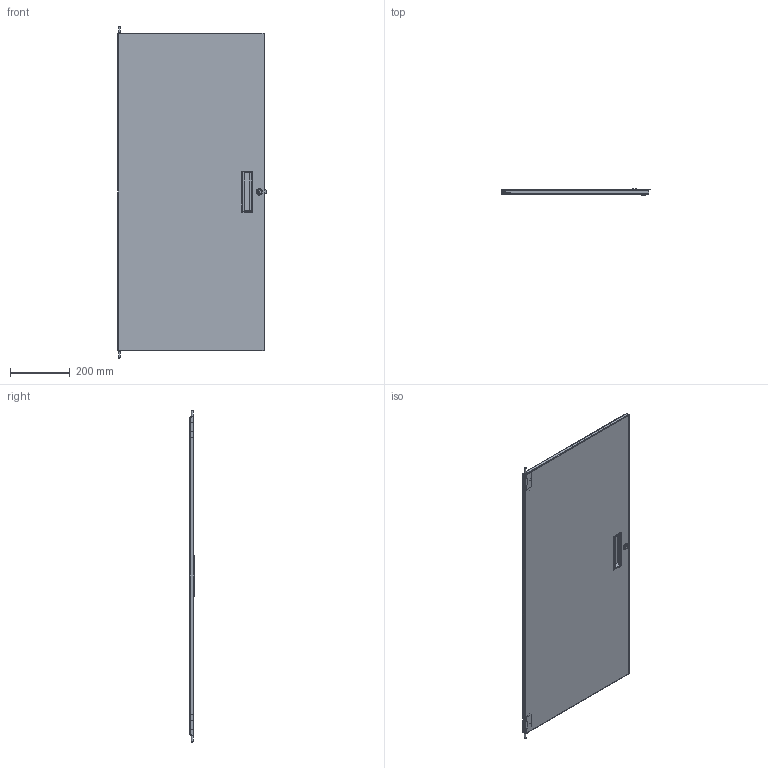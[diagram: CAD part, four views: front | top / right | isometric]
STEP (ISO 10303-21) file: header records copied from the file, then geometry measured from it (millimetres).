
FILE_DESCRIPTION( ( 'Unknown' ), '1' );
FILE_NAME( 'Q:/WEB DRAWINGS/STEP/CDF1942S.stp', 'Unknown', ( 'Unknown' ), ( 'Unknown' ), 'PSStep 17.0.49', 'Unknown', ' ' );
FILE_SCHEMA( ( 'AUTOMOTIVE_DESIGN { 1 0 10303 214 1 1 1 1 }' ) );
Length unit declared in the file: millimetre
Products named in the file (9): COM54617; HNG14581; std26020; COM53523; Assem1; LOC13312; HAN13044; PIN17620
Assembly tree (10 placements, depth 4):
  Assem1
    LOC13312
    HAN13044
    PIN17620  x2
    COM53523
      COM53523
      COM54617  x2
        HNG14581
        std26020
Bounding box: 496.67 x 19.96 x 1108.35 mm (x, y, z)
Volume: 878665.6 mm3; surface area: 1201534.6 mm2
Topology: 9 solids, 9 shells, 244 faces, 597 edges, 386 vertices
Faces by surface type: plane 173, cylinder 54, cone 9, torus 4, bspline 4
Full cylindrical faces by diameter (mm): 4.775 x2, 5.182 x2, 6.35 x8, 8.382 x1, 13.868 x1, 13.97 x1, 21.996 x1
Entity records: 8104 total; most frequent: CARTESIAN_POINT 1363, DIRECTION 1012, ORIENTED_EDGE 992, EDGE_CURVE 496, LINE 374, VECTOR 374, VERTEX_POINT 330, AXIS2_PLACEMENT_3D 319
